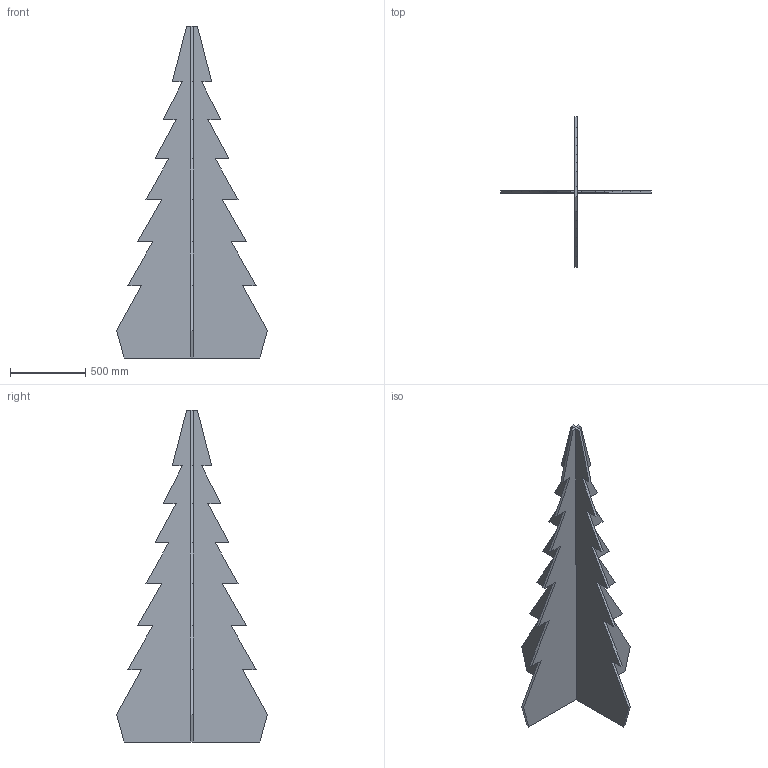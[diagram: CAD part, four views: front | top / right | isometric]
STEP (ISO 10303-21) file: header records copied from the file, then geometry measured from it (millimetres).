
FILE_DESCRIPTION(('Open CASCADE Model'),'2;1');
FILE_NAME('ASSEMBLY','2026-10-01T19:14:14',('Author'),('Open CASCADE'), 'Open CASCADE STEP processor 7.8','build123d','Unknown');
FILE_SCHEMA(('AUTOMOTIVE_DESIGN { 1 0 10303 214 1 1 1 1 }'));
Length unit declared in the file: millimetre
Products named in the file (5): ASSEMBLY; SOLID
Assembly tree (4 placements, depth 3):
  ASSEMBLY
    ASSEMBLY
      SOLID
    ASSEMBLY
      SOLID
Bounding box: 1000 x 1000 x 2200 mm (x, y, z)
Volume: 38193696 mm3; surface area: 4708275.1 mm2
Topology: 2 solids, 2 shells, 72 faces, 204 edges, 136 vertices
Faces by surface type: plane 72
Entity records: 5020 total; most frequent: CARTESIAN_POINT 825, DIRECTION 766, LINE 612, VECTOR 612, ORIENTED_EDGE 408, PCURVE 408, DEFINITIONAL_REPRESENTATION 408, EDGE_CURVE 204
